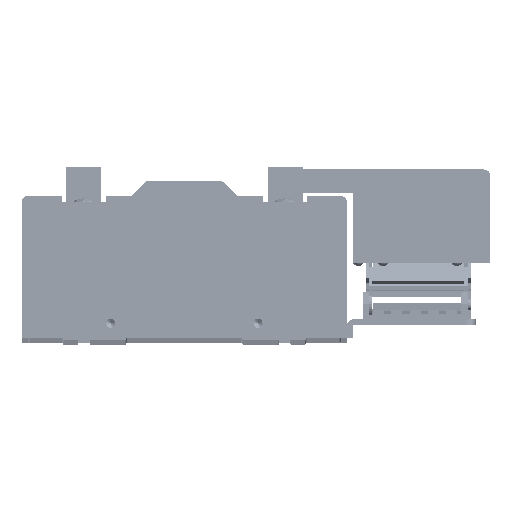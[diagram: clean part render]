
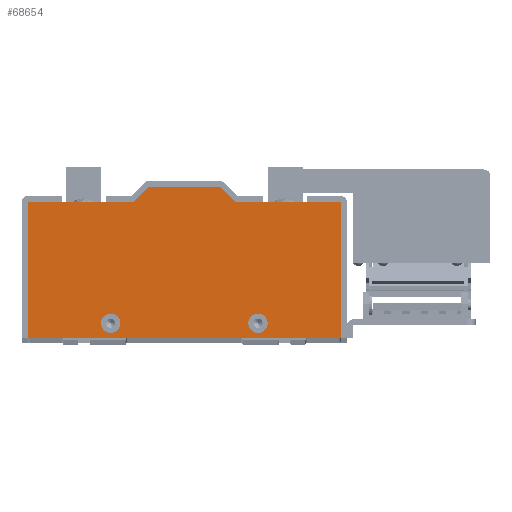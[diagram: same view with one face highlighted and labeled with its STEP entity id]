
A CAD part, top view. The second image highlights one B-rep face of the part: STEP entity #68654.
In plain terms, the highlighted planar face has unit normal (0, 0, 1).
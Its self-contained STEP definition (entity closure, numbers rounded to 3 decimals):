
#40683 = VERTEX_POINT ( 'NONE', #123794 ) ;
#44971 = VERTEX_POINT ( 'NONE', #126826 ) ;
#45624 = EDGE_CURVE ( 'NONE', #40683, #44971, #127834, .T. ) ;
#65574 = EDGE_CURVE ( 'NONE', #135613, #136536, #88508, .T. ) ;
#65651 = VERTEX_POINT ( 'NONE', #88666 ) ;
#66827 = ORIENTED_EDGE ( 'NONE', *, *, #66895, .F. ) ;
#66895 = EDGE_CURVE ( 'NONE', #130458, #93467, #89919, .T. ) ;
#66924 = ORIENTED_EDGE ( 'NONE', *, *, #134731, .F. ) ;
#66927 = EDGE_LOOP ( 'NONE', ( #68681, #68682, #68639, #68643, #68646, #68676, #68678, #68665 ) ) ;
#67571 = EDGE_LOOP ( 'NONE', ( #67590, #67608 ) ) ;
#67582 = EDGE_CURVE ( 'NONE', #44971, #40683, #90110, .T. ) ;
#67590 = ORIENTED_EDGE ( 'NONE', *, *, #67582, .F. ) ;
#67608 = ORIENTED_EDGE ( 'NONE', *, *, #45624, .F. ) ;
#67705 = EDGE_LOOP ( 'NONE', ( #66827, #66924 ) ) ;
#68639 = ORIENTED_EDGE ( 'NONE', *, *, #93810, .T. ) ;
#68643 = ORIENTED_EDGE ( 'NONE', *, *, #136531, .T. ) ;
#68646 = ORIENTED_EDGE ( 'NONE', *, *, #135698, .T. ) ;
#68654 = ADVANCED_FACE ( 'NONE', ( #90551, #90549, #90548 ), #90544, .T. ) ;
#68657 = EDGE_CURVE ( 'NONE', #136495, #130359, #90533, .T. ) ;
#68665 = ORIENTED_EDGE ( 'NONE', *, *, #68657, .T. ) ;
#68676 = ORIENTED_EDGE ( 'NONE', *, *, #65574, .T. ) ;
#68678 = ORIENTED_EDGE ( 'NONE', *, *, #136760, .T. ) ;
#68681 = ORIENTED_EDGE ( 'NONE', *, *, #130564, .T. ) ;
#68682 = ORIENTED_EDGE ( 'NONE', *, *, #129883, .T. ) ;
#88505 = DIRECTION ( 'NONE',  ( -1., 0., 0. ) ) ;
#88506 = VECTOR ( 'NONE', #88505, 1000. ) ;
#88507 = CARTESIAN_POINT ( 'NONE',  ( -19.5, 45., 9.525 ) ) ;
#88508 = LINE ( 'NONE', #88507, #88506 ) ;
#88666 = CARTESIAN_POINT ( 'NONE',  ( 27.5, 37., 9.525 ) ) ;
#89919 = CIRCLE ( 'NONE', #89996, 5.25 ) ;
#89993 = DIRECTION ( 'NONE',  ( 1., 0., 0. ) ) ;
#89994 = DIRECTION ( 'NONE',  ( 0., 0., 1. ) ) ;
#89995 = CARTESIAN_POINT ( 'NONE',  ( 40., -29., 9.525 ) ) ;
#89996 = AXIS2_PLACEMENT_3D ( 'NONE', #89995, #89994, #89993 ) ;
#90107 = DIRECTION ( 'NONE',  ( 1., 0., 0. ) ) ;
#90108 = DIRECTION ( 'NONE',  ( 0., 0., 1. ) ) ;
#90109 = AXIS2_PLACEMENT_3D ( 'NONE', #90116, #90108, #90107 ) ;
#90110 = CIRCLE ( 'NONE', #90109, 5.25 ) ;
#90116 = CARTESIAN_POINT ( 'NONE',  ( -40., -29., 9.525 ) ) ;
#90529 = DIRECTION ( 'NONE',  ( -1., 0., 0. ) ) ;
#90530 = VECTOR ( 'NONE', #90529, 1000. ) ;
#90532 = CARTESIAN_POINT ( 'NONE',  ( -85., 37., 9.525 ) ) ;
#90533 = LINE ( 'NONE', #90532, #90530 ) ;
#90539 = DIRECTION ( 'NONE',  ( 1., 0., 0. ) ) ;
#90540 = DIRECTION ( 'NONE',  ( 0., 0., 1. ) ) ;
#90541 = CARTESIAN_POINT ( 'NONE',  ( -85., 37., 9.525 ) ) ;
#90542 = AXIS2_PLACEMENT_3D ( 'NONE', #90541, #90540, #90539 ) ;
#90544 = PLANE ( 'NONE',  #90542 ) ;
#90548 = FACE_OUTER_BOUND ( 'NONE', #66927, .T. ) ;
#90549 = FACE_BOUND ( 'NONE', #67705, .T. ) ;
#90551 = FACE_BOUND ( 'NONE', #67571, .T. ) ;
#93467 = VERTEX_POINT ( 'NONE', #100992 ) ;
#93810 = EDGE_CURVE ( 'NONE', #129488, #136963, #101206, .T. ) ;
#100992 = CARTESIAN_POINT ( 'NONE',  ( 34.75, -29., 9.525 ) ) ;
#101202 = DIRECTION ( 'NONE',  ( 0., 1., 0. ) ) ;
#101203 = VECTOR ( 'NONE', #101202, 1000. ) ;
#101205 = CARTESIAN_POINT ( 'NONE',  ( 85., 37., 9.525 ) ) ;
#101206 = LINE ( 'NONE', #101205, #101203 ) ;
#114604 = CARTESIAN_POINT ( 'NONE',  ( 85., -37., 9.525 ) ) ;
#114630 = DIRECTION ( 'NONE',  ( 1., 0., 0. ) ) ;
#114632 = VECTOR ( 'NONE', #114630, 1000. ) ;
#114634 = CARTESIAN_POINT ( 'NONE',  ( -85., -37., 9.525 ) ) ;
#114636 = LINE ( 'NONE', #114634, #114632 ) ;
#114802 = CARTESIAN_POINT ( 'NONE',  ( -85., 37., 9.525 ) ) ;
#114879 = DIRECTION ( 'NONE',  ( 0., -1., 0. ) ) ;
#114881 = VECTOR ( 'NONE', #114879, 1000. ) ;
#114882 = CARTESIAN_POINT ( 'NONE',  ( -85., 37., 9.525 ) ) ;
#114884 = LINE ( 'NONE', #114882, #114881 ) ;
#114911 = CARTESIAN_POINT ( 'NONE',  ( 45.25, -29., 9.525 ) ) ;
#115004 = CARTESIAN_POINT ( 'NONE',  ( -85., -37., 9.525 ) ) ;
#116163 = DIRECTION ( 'NONE',  ( 1., 0., 0. ) ) ;
#116165 = DIRECTION ( 'NONE',  ( 0., 0., 1. ) ) ;
#116166 = CARTESIAN_POINT ( 'NONE',  ( 40., -29., 9.525 ) ) ;
#116167 = AXIS2_PLACEMENT_3D ( 'NONE', #116166, #116165, #116163 ) ;
#116168 = CIRCLE ( 'NONE', #116167, 5.25 ) ;
#116724 = DIRECTION ( 'NONE',  ( -0.707, 0.707, 0. ) ) ;
#116725 = VECTOR ( 'NONE', #116724, 1000. ) ;
#116726 = CARTESIAN_POINT ( 'NONE',  ( 19.5, 45., 9.525 ) ) ;
#116727 = LINE ( 'NONE', #116726, #116725 ) ;
#116782 = CARTESIAN_POINT ( 'NONE',  ( 19.5, 45., 9.525 ) ) ;
#116965 = CARTESIAN_POINT ( 'NONE',  ( -27.5, 37., 9.525 ) ) ;
#117044 = CARTESIAN_POINT ( 'NONE',  ( -19.5, 45., 9.525 ) ) ;
#117047 = DIRECTION ( 'NONE',  ( -1., 0., 0. ) ) ;
#117048 = VECTOR ( 'NONE', #117047, 1000. ) ;
#117049 = CARTESIAN_POINT ( 'NONE',  ( 27.5, 37., 9.525 ) ) ;
#117051 = LINE ( 'NONE', #117049, #117048 ) ;
#117095 = DIRECTION ( 'NONE',  ( -0.707, -0.707, 0. ) ) ;
#117096 = VECTOR ( 'NONE', #117095, 1000. ) ;
#117097 = CARTESIAN_POINT ( 'NONE',  ( -27.5, 37., 9.525 ) ) ;
#117098 = LINE ( 'NONE', #117097, #117096 ) ;
#117169 = CARTESIAN_POINT ( 'NONE',  ( 85., 37., 9.525 ) ) ;
#123794 = CARTESIAN_POINT ( 'NONE',  ( -45.25, -29., 9.525 ) ) ;
#126826 = CARTESIAN_POINT ( 'NONE',  ( -34.75, -29., 9.525 ) ) ;
#127829 = DIRECTION ( 'NONE',  ( 1., 0., 0. ) ) ;
#127831 = DIRECTION ( 'NONE',  ( 0., 0., 1. ) ) ;
#127832 = CARTESIAN_POINT ( 'NONE',  ( -40., -29., 9.525 ) ) ;
#127833 = AXIS2_PLACEMENT_3D ( 'NONE', #127832, #127831, #127829 ) ;
#127834 = CIRCLE ( 'NONE', #127833, 5.25 ) ;
#129488 = VERTEX_POINT ( 'NONE', #114604 ) ;
#129883 = EDGE_CURVE ( 'NONE', #130735, #129488, #114636, .T. ) ;
#130359 = VERTEX_POINT ( 'NONE', #114802 ) ;
#130458 = VERTEX_POINT ( 'NONE', #114911 ) ;
#130564 = EDGE_CURVE ( 'NONE', #130359, #130735, #114884, .T. ) ;
#130735 = VERTEX_POINT ( 'NONE', #115004 ) ;
#134731 = EDGE_CURVE ( 'NONE', #93467, #130458, #116168, .T. ) ;
#135613 = VERTEX_POINT ( 'NONE', #116782 ) ;
#135698 = EDGE_CURVE ( 'NONE', #65651, #135613, #116727, .T. ) ;
#136495 = VERTEX_POINT ( 'NONE', #116965 ) ;
#136531 = EDGE_CURVE ( 'NONE', #136963, #65651, #117051, .T. ) ;
#136536 = VERTEX_POINT ( 'NONE', #117044 ) ;
#136760 = EDGE_CURVE ( 'NONE', #136536, #136495, #117098, .T. ) ;
#136963 = VERTEX_POINT ( 'NONE', #117169 ) ;
